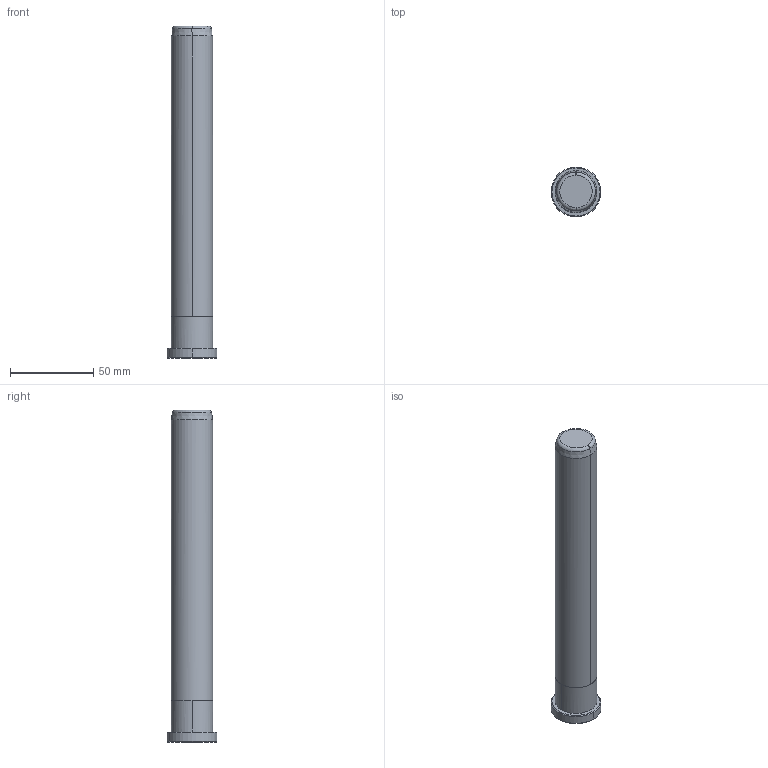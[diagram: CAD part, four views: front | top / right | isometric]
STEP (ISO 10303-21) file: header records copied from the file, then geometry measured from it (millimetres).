
FILE_DESCRIPTION(('CATIA V5 STEP Exchange'),'2;1');
FILE_NAME('C:\Users\Raffaele\Desktop\3D BOLEX\3D FILES CF BOLEX\12-PILLAR REF 858\B85825200.stp','2019-06-20T12:42:09+00:00',('none'),('none'),'CATIA Version 5 Release 20 GA (IN-10)','CATIA V5 STEP AP203','none');
FILE_SCHEMA(('CONFIG_CONTROL_DESIGN'));
Length unit declared in the file: millimetre
Products named in the file (1): B85825200
Bounding box: 30 x 30 x 200 mm (x, y, z)
Volume: 99180.6 mm3; surface area: 17026.8 mm2
Topology: 1 solids, 1 shells, 20 faces, 40 edges, 24 vertices
Faces by surface type: cone 6, cylinder 6, plane 4, torus 4
Entity records: 653 total; most frequent: CARTESIAN_POINT 210, ORIENTED_EDGE 80, DIRECTION 73, AXIS2_PLACEMENT_3D 42, EDGE_CURVE 40, VERTEX_POINT 24, EDGE_LOOP 22, CIRCLE 21
